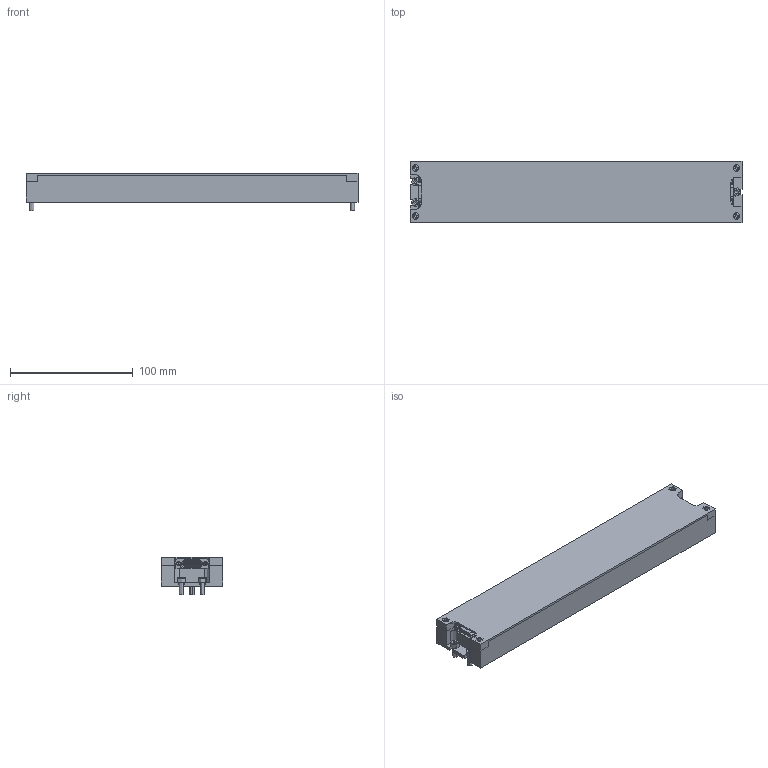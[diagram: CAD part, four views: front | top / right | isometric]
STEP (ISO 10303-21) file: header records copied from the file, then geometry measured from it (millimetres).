
FILE_DESCRIPTION (( 'STEP AP214' ), '1' );
FILE_NAME ('htdrive.STEP', '2025-04-04T12:56:23', ( '' ), ( '' ), 'SwSTEP 2.0', 'SolidWorks 2024', '' );
FILE_SCHEMA (( 'AUTOMOTIVE_DESIGN' ));
Length unit declared in the file: millimetre
Products named in the file (8): 底座; 盖板; hexagon socket head cap screws gb_GB_FASTENER_SCREWS_HSHCS M3X10-N; hexagon socket head cap screws gb_GB_FASTENER_SCREWS_HSHCS M4X10-N; htdrive; v2.0; cross recessed cheese head screws type a gb_GB_CROSS_SCREWS_TYPE135 M3X8-N; mos
Assembly tree (26 placements, depth 2):
  htdrive
    v2.0
    mos  x6
    底座
    盖板
    hexagon socket head cap screws gb_GB_FASTENER_SCREWS_HSHCS M3X10-N  x8
    hexagon socket head cap screws gb_GB_FASTENER_SCREWS_HSHCS M4X10-N  x3
    cross recessed cheese head screws type a gb_GB_CROSS_SCREWS_TYPE135 M3X8-N  x6
Bounding box: 270 x 50 x 30.6 mm (x, y, z)
Topology: 840 solids, 880 shells, 9504 faces, 22319 edges, 14523 vertices
Faces by surface type: plane 6236, cylinder 1950, bspline 629, cone 353, torus 265, sphere 71
Entity records: 358001 total; most frequent: CARTESIAN_POINT 69364, ORIENTED_EDGE 42372, DIRECTION 38163, EDGE_CURVE 21186, VERTEX_POINT 13891, LINE 13671, VECTOR 13671, AXIS2_PLACEMENT_3D 12246
